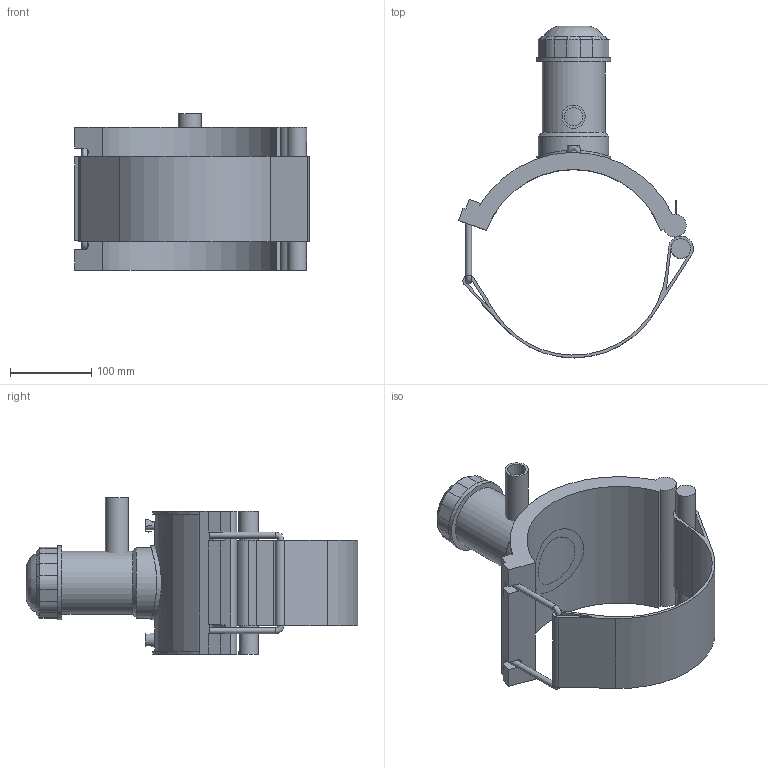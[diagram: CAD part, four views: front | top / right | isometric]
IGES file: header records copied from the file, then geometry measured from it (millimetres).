
Global section: file name: 5963DUP3080010.ipt; native system: Autodesk Inventor 2019; preprocessor: unknown; author: KIM; date: 20210830.101722; units: inch
Bounding box: 289.75 x 409.37 x 192.91 mm (x, y, z)
Volume: 1985375.7 mm3; surface area: 379806.6 mm2
Topology: 4 solids, 4 shells, 125 faces, 305 edges, 196 vertices
Faces by surface type: plane 69, cylinder 30, revolution 13, cone 13
Full cylindrical faces by diameter (mm): 4 x2, 7.325 x2, 24.123 x1, 28.45 x1, 77.826 x1, 86.982 x1, 91.56 x2
